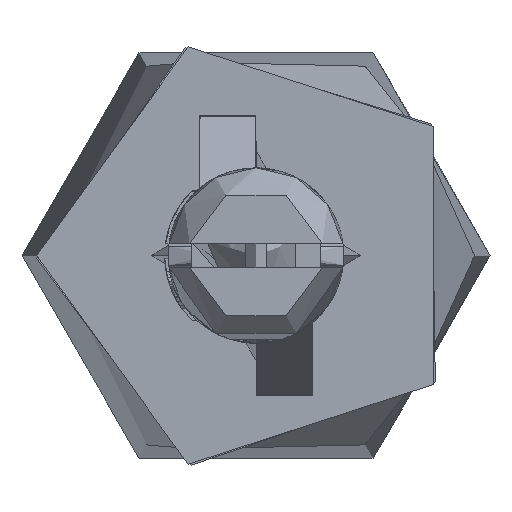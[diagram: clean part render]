
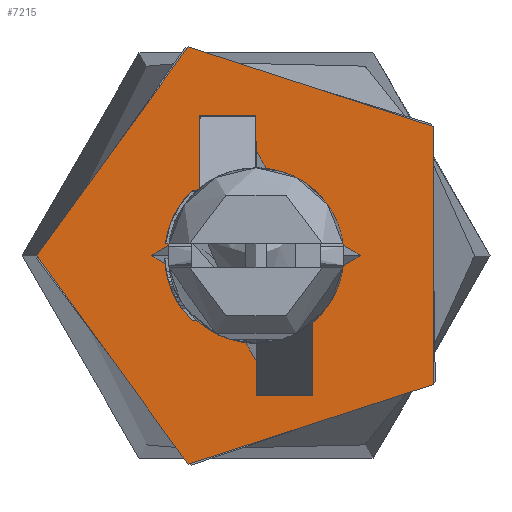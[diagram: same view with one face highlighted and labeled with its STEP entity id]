
A CAD part, front view. The second image highlights one B-rep face of the part: STEP entity #7215.
In plain terms, the highlighted planar face has unit normal (0, -1, 0) as drawn and (-1, 0, 0) by its records, which use the part's own axes.
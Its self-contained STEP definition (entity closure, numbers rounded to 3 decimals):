
#2120=PLANE('',#7644);
#2328=FACE_BOUND('',#2821,.T.);
#2401=FACE_OUTER_BOUND('',#2820,.T.);
#2820=EDGE_LOOP('',(#5206));
#2821=EDGE_LOOP('',(#5207));
#3232=CIRCLE('',#7639,5.25);
#3234=CIRCLE('',#7642,15.);
#3370=VERTEX_POINT('',#12044);
#3372=VERTEX_POINT('',#12049);
#4081=EDGE_CURVE('',#3370,#3370,#3232,.T.);
#4083=EDGE_CURVE('',#3372,#3372,#3234,.T.);
#5206=ORIENTED_EDGE('',*,*,#4083,.T.);
#5207=ORIENTED_EDGE('',*,*,#4081,.T.);
#7215=ADVANCED_FACE('',(#2401,#2328),#2120,.T.);
#7639=AXIS2_PLACEMENT_3D('',#12045,#8277,#8278);
#7642=AXIS2_PLACEMENT_3D('',#12050,#8283,#8284);
#7644=AXIS2_PLACEMENT_3D('',#12052,#8287,#8288);
#8277=DIRECTION('center_axis',(1.,0.,0.));
#8278=DIRECTION('ref_axis',(0.,-1.,0.));
#8283=DIRECTION('center_axis',(-1.,0.,0.));
#8284=DIRECTION('ref_axis',(0.,-1.,0.));
#8287=DIRECTION('center_axis',(-1.,0.,0.));
#8288=DIRECTION('ref_axis',(0.,0.,1.));
#12044=CARTESIAN_POINT('',(0.,5.25,0.));
#12045=CARTESIAN_POINT('Origin',(0.,0.,0.));
#12049=CARTESIAN_POINT('',(0.,15.,0.));
#12050=CARTESIAN_POINT('Origin',(0.,0.,0.));
#12052=CARTESIAN_POINT('Origin',(0.,0.,0.));
